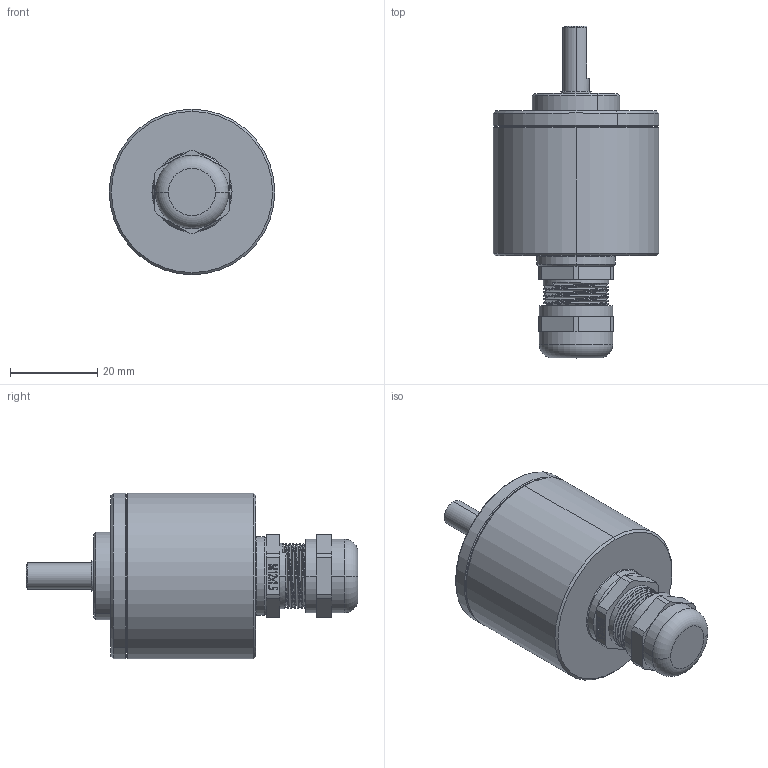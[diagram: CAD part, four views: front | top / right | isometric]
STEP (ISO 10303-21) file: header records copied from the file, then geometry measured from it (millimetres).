
FILE_DESCRIPTION (( 'STEP AP214' ), '1' );
FILE_NAME ('单圈绝对值编码器-38AH（简化模型）.STEP', '2023-05-02T14:26:46', ( '' ), ( '' ), 'SwSTEP 2.0', 'SolidWorks 2016', '' );
FILE_SCHEMA (( 'AUTOMOTIVE_DESIGN' ));
Length unit declared in the file: millimetre
Products named in the file (1): 单圈绝对值编码器-38AH（简化模型）
Bounding box: 38 x 76.2 x 38 mm (x, y, z)
Volume: 43494.2 mm3; surface area: 9525.3 mm2
Topology: 1 solids, 1 shells, 318 faces, 899 edges, 578 vertices
Faces by surface type: plane 156, cylinder 65, bspline 50, cone 45, torus 2
Entity records: 18173 total; most frequent: CARTESIAN_POINT 9260, ORIENTED_EDGE 1774, DIRECTION 1403, EDGE_CURVE 887, VERTEX_POINT 578, LINE 481, VECTOR 481, AXIS2_PLACEMENT_3D 461
